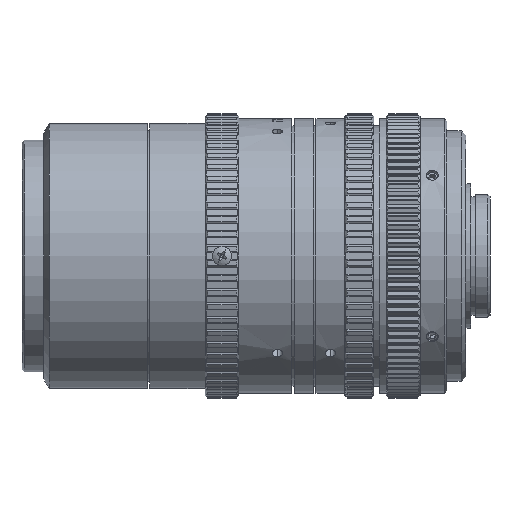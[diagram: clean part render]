
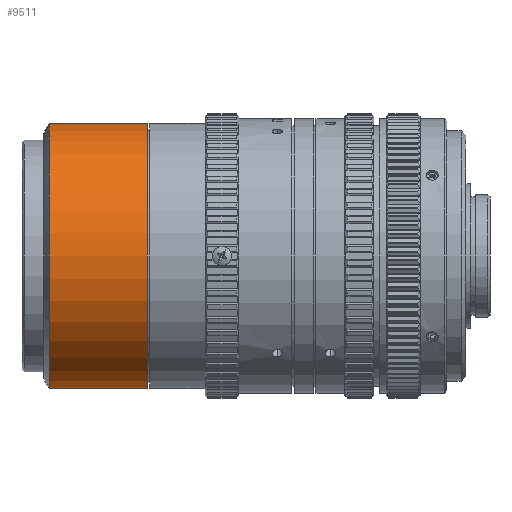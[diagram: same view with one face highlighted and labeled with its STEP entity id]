
A CAD part, front view. The second image highlights one B-rep face of the part: STEP entity #9511.
In plain terms, the highlighted cylindrical face has radius 27.5 mm (diameter 55 mm), a partial arc.
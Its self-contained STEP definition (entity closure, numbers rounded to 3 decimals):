
#686 = CARTESIAN_POINT ( 'NONE',  ( 130., 120., 27.5 ) ) ;
#2025 = CARTESIAN_POINT ( 'NONE',  ( 114.655, 120., 0. ) ) ;
#9511 = ADVANCED_FACE ( 'NONE', ( #40729 ), #85464, .T. ) ;
#10755 = VERTEX_POINT ( 'NONE', #80313 ) ;
#10988 = DIRECTION ( 'NONE',  ( 0., 0., 1. ) ) ;
#17869 = VECTOR ( 'NONE', #54211, 1000. ) ;
#30140 = EDGE_CURVE ( 'NONE', #10755, #91073, #102014, .T. ) ;
#30881 = EDGE_LOOP ( 'NONE', ( #83454, #94861, #77058, #111801 ) ) ;
#31283 = DIRECTION ( 'NONE',  ( -1., 0., 0. ) ) ;
#31863 = CARTESIAN_POINT ( 'NONE',  ( 135., 120., 27.5 ) ) ;
#31867 = EDGE_CURVE ( 'NONE', #91073, #91205, #65475, .T. ) ;
#39193 = DIRECTION ( 'NONE',  ( -1., 0., 0. ) ) ;
#40729 = FACE_OUTER_BOUND ( 'NONE', #30881, .T. ) ;
#43959 = CARTESIAN_POINT ( 'NONE',  ( 130., 120., -27.5 ) ) ;
#47137 = VECTOR ( 'NONE', #70929, 1000. ) ;
#54211 = DIRECTION ( 'NONE',  ( -1., 0., 0. ) ) ;
#54269 = AXIS2_PLACEMENT_3D ( 'NONE', #111401, #31283, #66473 ) ;
#64607 = DIRECTION ( 'NONE',  ( -1., 0., 0. ) ) ;
#65475 = LINE ( 'NONE', #686, #17869 ) ;
#66473 = DIRECTION ( 'NONE',  ( 0., 0., 1. ) ) ;
#70929 = DIRECTION ( 'NONE',  ( -1., 0., 0. ) ) ;
#71638 = AXIS2_PLACEMENT_3D ( 'NONE', #2025, #64607, #10988 ) ;
#77058 = ORIENTED_EDGE ( 'NONE', *, *, #31867, .T. ) ;
#78370 = CARTESIAN_POINT ( 'NONE',  ( 114.655, 120., 27.5 ) ) ;
#80313 = CARTESIAN_POINT ( 'NONE',  ( 135., 120., -27.5 ) ) ;
#83454 = ORIENTED_EDGE ( 'NONE', *, *, #104146, .F. ) ;
#85464 = CYLINDRICAL_SURFACE ( 'NONE', #54269, 27.5 ) ;
#90640 = CIRCLE ( 'NONE', #71638, 27.5 ) ;
#91073 = VERTEX_POINT ( 'NONE', #31863 ) ;
#91205 = VERTEX_POINT ( 'NONE', #78370 ) ;
#92680 = CARTESIAN_POINT ( 'NONE',  ( 114.655, 120., -27.5 ) ) ;
#92730 = CARTESIAN_POINT ( 'NONE',  ( 135., 120., 0. ) ) ;
#93611 = VERTEX_POINT ( 'NONE', #92680 ) ;
#94765 = LINE ( 'NONE', #43959, #47137 ) ;
#94861 = ORIENTED_EDGE ( 'NONE', *, *, #30140, .T. ) ;
#95082 = AXIS2_PLACEMENT_3D ( 'NONE', #92730, #39193, #101695 ) ;
#101695 = DIRECTION ( 'NONE',  ( 0., 0., 1. ) ) ;
#102014 = CIRCLE ( 'NONE', #95082, 27.5 ) ;
#102728 = EDGE_CURVE ( 'NONE', #93611, #91205, #90640, .T. ) ;
#104146 = EDGE_CURVE ( 'NONE', #10755, #93611, #94765, .T. ) ;
#111401 = CARTESIAN_POINT ( 'NONE',  ( 130., 120., 0. ) ) ;
#111801 = ORIENTED_EDGE ( 'NONE', *, *, #102728, .F. ) ;
